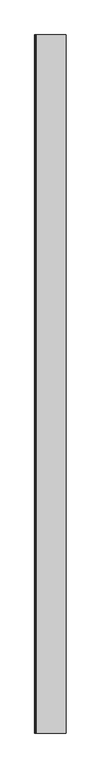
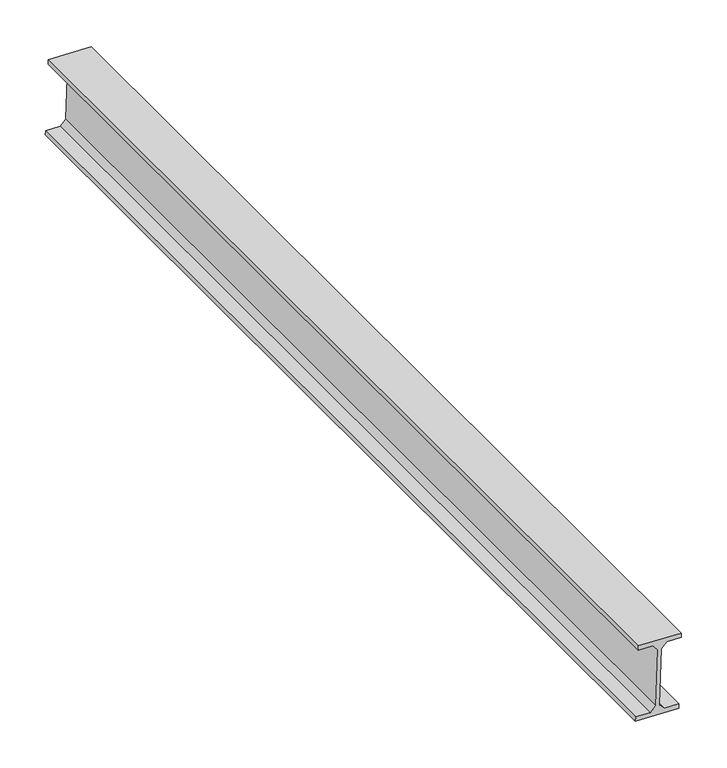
"""IFC4 building model written with IfcOpenShell, lengths in millimetres: beam geometry, Panne 174410 : Panne 174410."""

from ifc_helpers import new_model, si_unit, frame, origin, place, context, project, spatial, polyline, outline, extrude, source, transform, mapped, element, save


def beam_a76aa42f(model_context):
    return source(origin(), model_context, "Body", "SweptSolid", [
        extrude(outline(polyline([(7698.5424632, 9575.9296241), (7700.4662852, 9520.9632807), (7694.7697732, 9520.7639027), (7694.1244184, 9539.2026125), (7686.8838519, 9545.9534788), (7612.3295024, 9543.3440766), (7605.5786361, 9536.1035101), (7606.2239909, 9517.6648004), (7600.527479, 9517.4654224), (7598.6036569, 9572.4317659), (7604.3001689, 9572.6311438), (7604.9455237, 9554.192434), (7612.1860902, 9547.4415677), (7686.7404397, 9550.0509699), (7693.491306, 9557.2915364), (7692.8459512, 9575.7302462), (7698.5424632, 9575.9296241)])), frame((0.0, -39755.0, 0.0), z_axis=(0.0, 1.0, 0.0), x_axis=(0.0, 0.0, 1.0)), (0.0, 0.0, 1.0), 1299.45),
    ])


if __name__ == "__main__":
    model = new_model("IFC4")
    model_context = context("Model", 3, world=origin())
    ifc_project = project(units=[si_unit("LENGTHUNIT", "METRE", prefix="MILLI")], contexts=[model_context])
    site = spatial("IfcSite", under=ifc_project)
    building = spatial("IfcBuilding", under=site)
    placement = place(None, origin())
    beam_shape = beam_a76aa42f(model_context)
    element("IfcBeam", 1, ObjectType="Panne 174410 : Panne 174410", at=placement, inside=building, context=model_context, shape_type="MappedRepresentation", body=[
        mapped(beam_shape, transform((0.0, 0.0, 0.0), x_axis=(1.0, 0.0, 0.0), y_axis=(0.0, 1.0, 0.0), z_axis=(0.0, 0.0, 1.0))),
    ])
    save(model, "model.ifc")
